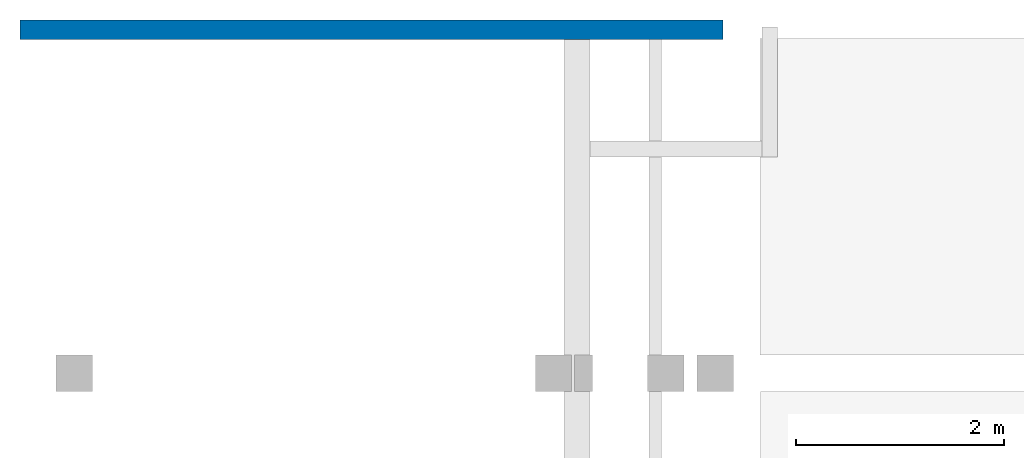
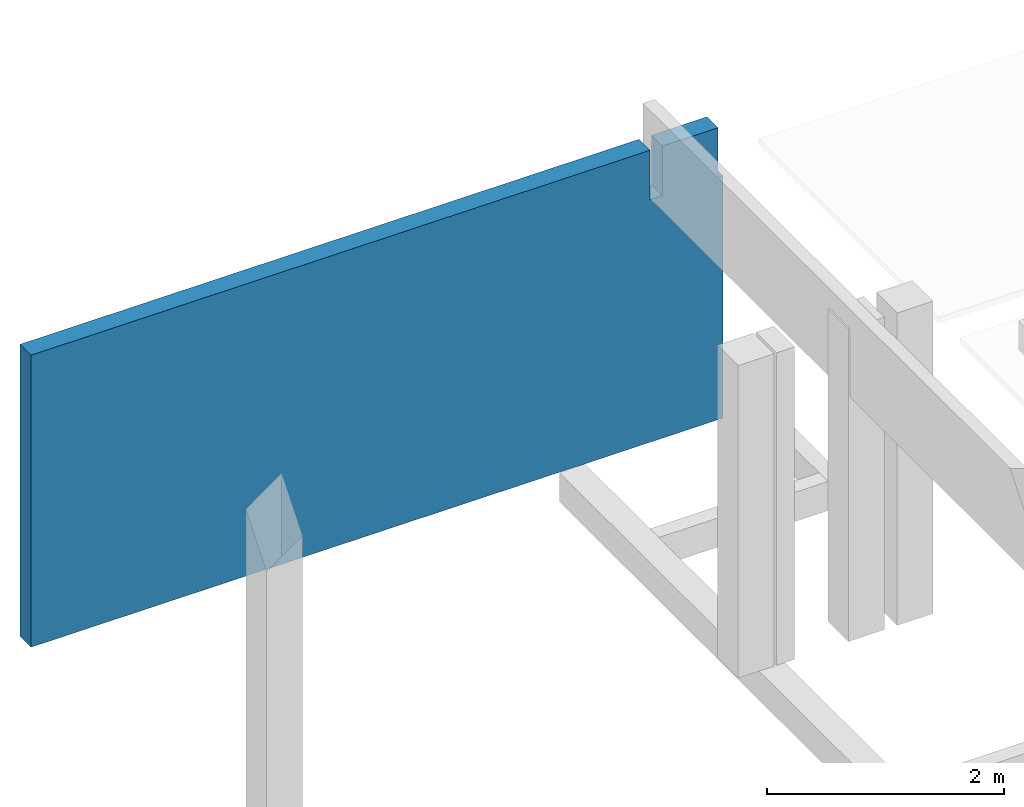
# One storey, part 2 of 3: 1 wall.
"""IFC2X3 building model written with IfcOpenShell, lengths in millimetres."""

from ifc_helpers import new_model, entity, si_unit, converted_unit, derived_unit, direction, frame, origin, origin_with_axes, place, context, subcontext, project, spatial, faceted_brep, material, layer, layer_set, type_object, element, save


model = new_model("IFC2X3")

# Units and contexts
model_context = context("Model", 3, precision=0.01, world=origin(), true_north=direction((6.12303176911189e-17, 1.0)))
plan_context = context("Plan", 3, precision=1e-05, world=origin_with_axes())
body_context = subcontext(model_context, "Body", "Model", "MODEL_VIEW")
ifc_project = project(units=[converted_unit("PLANEANGLEUNIT", "DEGREE", entity("IfcPositiveLengthMeasure", 0.0174532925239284), si_unit("PLANEANGLEUNIT", "RADIAN"), dimensions=[0, 0, 0, 0, 0, 0, 0]), si_unit("AREAUNIT", "SQUARE_METRE"), si_unit("LENGTHUNIT", "METRE", prefix="MILLI"), si_unit("MASSUNIT", "GRAM", prefix="KILO"), si_unit("POWERUNIT", "WATT"), si_unit("PRESSUREUNIT", "PASCAL"), si_unit("FORCEUNIT", "NEWTON", prefix="KILO"), si_unit("ELECTRICVOLTAGEUNIT", "VOLT"), si_unit("ELECTRICCURRENTUNIT", "AMPERE"), si_unit("THERMODYNAMICTEMPERATUREUNIT", "DEGREE_CELSIUS"), si_unit("TIMEUNIT", "SECOND"), si_unit("VOLUMEUNIT", "CUBIC_METRE"), derived_unit("LINEARVELOCITYUNIT", [(si_unit("LENGTHUNIT", "METRE"), 1), (si_unit("TIMEUNIT", "SECOND"), -1)]), derived_unit("VOLUMETRICFLOWRATEUNIT", [(si_unit("VOLUMEUNIT", "CUBIC_METRE"), 1), (si_unit("TIMEUNIT", "SECOND"), -1)]), derived_unit("THERMALTRANSMITTANCEUNIT", [(si_unit("POWERUNIT", "WATT"), 1), (si_unit("THERMODYNAMICTEMPERATUREUNIT", "KELVIN"), -1), (si_unit("AREAUNIT", "SQUARE_METRE"), -1)]), derived_unit("SOUNDPRESSUREUNIT", [(si_unit("PRESSUREUNIT", "PASCAL"), 1)])], contexts=[model_context, plan_context])

# Site, building, storey
site_placement = place(None, frame((2314154.5009392, 1029894.10887124, 0.0), z_axis=(0.0, 0.0, 1.0), x_axis=(1.0, 0.0, 0.0)))
site = spatial("IfcSite", under=ifc_project, at=site_placement, Name="Default", CompositionType="ELEMENT")
building_placement = place(site_placement, origin_with_axes())
building = spatial("IfcBuilding", under=site, at=building_placement, CompositionType="ELEMENT")
storey_placement = place(building_placement, frame((0.0, 0.0, 10650.0), z_axis=(0.0, 0.0, 1.0), x_axis=(1.0, 0.0, 0.0)))
storey = spatial("IfcBuildingStorey", under=building, at=storey_placement, Name="XX - C+10,65 TB E1", CompositionType="ELEMENT", Elevation=10650.0)

# Wall
ifc_material_1 = material(Name="Værnes_Gipsplate")
ifc_layer_1 = layer(ifc_material_1, 13.0)
ifc_material_2 = material(Name="Værnes_Stålstender, uisolert")
ifc_layer_2 = layer(ifc_material_2, 160.0)
ifc_layer_3 = layer(ifc_material_1, 13.0)
ifc_layer_set = layer_set([ifc_layer_1, ifc_layer_2, ifc_layer_3], Name="Basic Wall:TB_SE11/160")
wall_type = type_object("IfcWallType", Name="Basic Wall:TB_SE11/160", PredefinedType="STANDARD", material=ifc_layer_set)
wall_placement = place(storey_placement, frame((285291.133944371, -33354.4514097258, 0.0), z_axis=(0.0, 0.0, 1.0), x_axis=(1.0, 0.0, 0.0)))
element("IfcWall", 1, at=wall_placement, inside=storey, type_object=wall_type, Name="Basic Wall:TB_SE11/160", ObjectType="Basic Wall:TB_SE11/160", context=body_context, shape_type="Brep", body=[
    faceted_brep([(16455.6114847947, -93.0, 0.0), (16455.6114847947, -93.0, 3010.0), (22489.5000029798, -93.0, 3010.0), (22489.5000029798, -93.0, 2500.0), (22610.5000029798, -93.0, 2500.0), (22610.5000029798, -93.0, 3010.0), (23152.0, -93.0, 3010.0), (23152.0, -93.0, 2500.0), (23200.0, -93.0, 2500.0), (23200.0, -93.0, 0.0), (16455.6114847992, 93.0, 3010.0), (16455.6114847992, 93.0, 0.0), (23200.0, 93.0, 0.0), (23200.0, 93.0, 2500.0), (23152.0, 93.0, 2500.0), (23152.0, 93.0, 3010.0), (22610.5000029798, 93.0, 3010.0), (22610.5000029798, 93.0, 2500.0), (22489.5000029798, 93.0, 2500.0), (22489.5000029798, 93.0, 3010.0), (23152.0, 27.0, 3010.0), (22597.5000029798, -93.0, 2500.0), (22597.5000029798, 93.0, 2500.0), (23152.0, 27.0, 2500.0), (23200.0, 27.0, 2500.0), (23200.0, 27.0, 0.0)], [[[0, 1, 2, 3, 4, 5, 6, 7, 8, 9]], [[10, 11, 12, 13, 14, 15, 16, 17, 18, 19]], [[11, 0, 9, 12]], [[5, 16, 15, 20, 6]], [[16, 5, 4, 17]], [[2, 19, 18, 3]], [[21, 22, 17, 4]], [[22, 21, 3, 18]], [[14, 23, 7, 6, 20, 15]], [[13, 24, 8, 7, 23, 14]], [[8, 24, 13, 12, 25, 9]], [[1, 10, 19, 2]], [[11, 10, 1, 0]]], orient=[[False], [False], [False], [False], [False], [False], [False], [False], [False], [False], [False], [False], [False]]),
])

save(model, "model.ifc")
